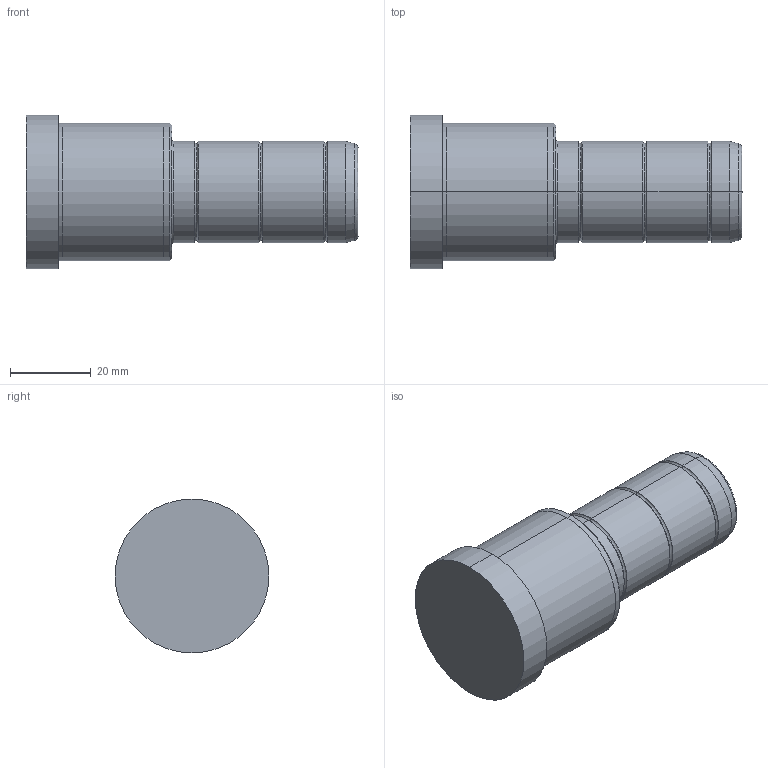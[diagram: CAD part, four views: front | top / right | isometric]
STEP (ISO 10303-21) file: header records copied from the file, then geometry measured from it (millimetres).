
FILE_DESCRIPTION( ( 'STEP AP203' ), '1' );
FILE_NAME( 'C:/Projects/D02 - 25x36x46.step', '2002-12-31T22:11:08', ( ' ' ), ( ' ' ), 'XStep 1.0', ' ', ' ' );
FILE_SCHEMA( ( 'CONFIG_CONTROL_DESIGN' ) );
Length unit declared in the file: metre
Products named in the file (1): 1
Bounding box: 82 x 38 x 38 mm (x, y, z)
Volume: 56900.8 mm3; surface area: 9829.8 mm2
Topology: 1 solids, 1 shells, 42 faces, 82 edges, 46 vertices
Faces by surface type: bspline 22, revolution 20
Entity records: 1325 total; most frequent: CARTESIAN_POINT 517, ORIENTED_EDGE 164, DIRECTION 134, EDGE_CURVE 82, AXIS2_PLACEMENT_3D 47, EDGE_LOOP 46, VERTEX_POINT 46, CIRCLE 46
